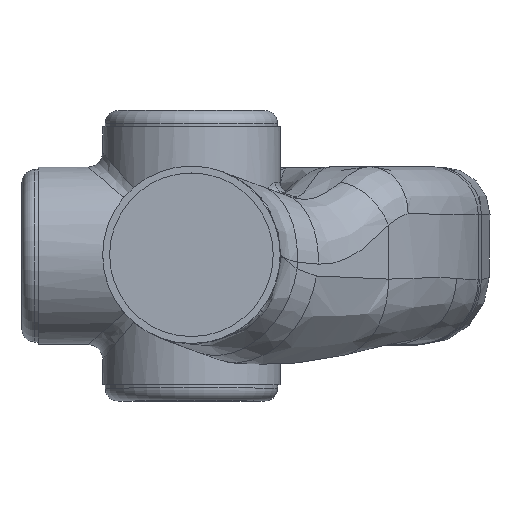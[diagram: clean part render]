
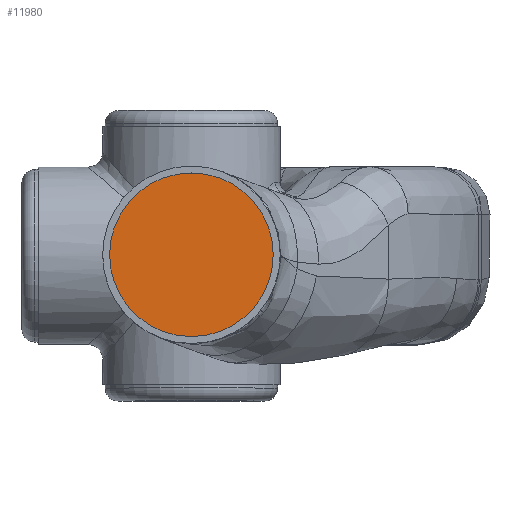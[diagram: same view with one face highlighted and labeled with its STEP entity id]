
A CAD part, top view. The second image highlights one B-rep face of the part: STEP entity #11980.
In plain terms, the highlighted planar face has unit normal (0, 0, 1).
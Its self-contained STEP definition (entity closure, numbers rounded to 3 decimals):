
#3006=FACE_OUTER_BOUND($,#3743,.T.);
#3743=EDGE_LOOP($,(#10378));
#4338=CIRCLE($,#12989,50.7);
#5388=VERTEX_POINT($,#62957);
#7052=EDGE_CURVE($,#5388,#5388,#4338,.T.);
#10378=ORIENTED_EDGE($,*,*,#7052,.F.);
#10626=PLANE($,#12990);
#11980=ADVANCED_FACE($,(#3006),#10626,.T.);
#12989=AXIS2_PLACEMENT_3D($,#62958,#15759,#15760);
#12990=AXIS2_PLACEMENT_3D($,#62959,#15761,#15762);
#15759=DIRECTION('center_axis',(0.,0.,-1.));
#15760=DIRECTION('ref_axis',(-1.,0.,0.));
#15761=DIRECTION('center_axis',(0.,0.,1.));
#15762=DIRECTION('ref_axis',(1.,0.,0.));
#62957=CARTESIAN_POINT('',(50.7,0.,100.));
#62958=CARTESIAN_POINT('Origin',(0.,0.,100.));
#62959=CARTESIAN_POINT('Origin',(0.,0.,100.));
